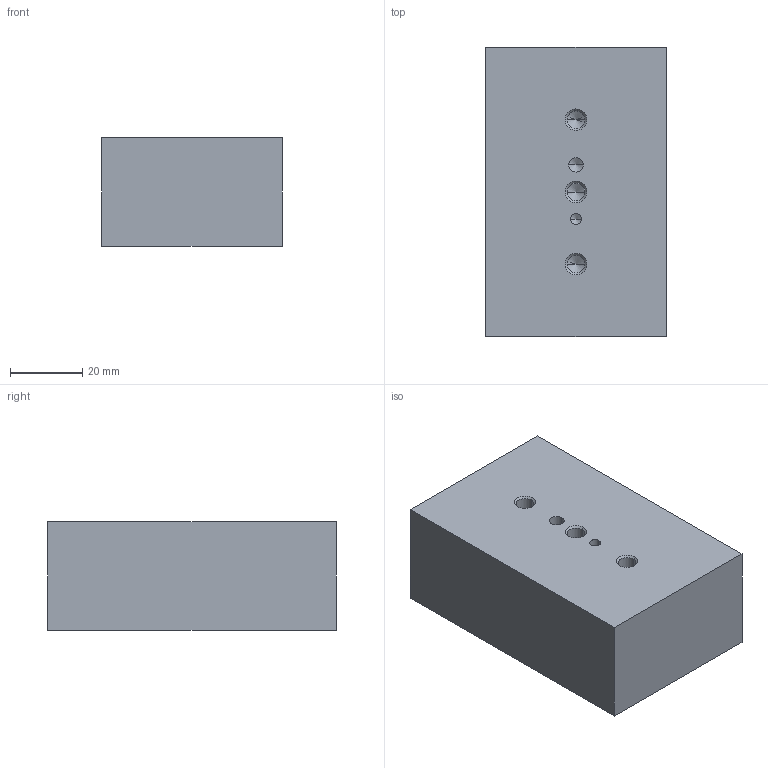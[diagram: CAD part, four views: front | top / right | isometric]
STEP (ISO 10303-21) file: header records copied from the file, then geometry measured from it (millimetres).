
FILE_DESCRIPTION(('STEP AP214'),'1');
FILE_NAME('cctmp_85369EBE-6C16-4774-AEDF-9D24667DA31F_2019_10_4_7_11_40_323..stp','2019-10-04T05:11:40',('Meusburger Georg GmbH & Co KG'),('CADClick - www.CADClick.com'),'Spatial InterOp 3D',' ','unknown authorization');
FILE_SCHEMA(('AUTOMOTIVE_DESIGN { 1 0 10303 214 1 1 1 1 }'));
Length unit declared in the file: millimetre
Products named in the file (1): V 92561_50_80_30
Bounding box: 50 x 80 x 30 mm (x, y, z)
Volume: 118947.5 mm3; surface area: 16669.7 mm2
Topology: 1 solids, 1 shells, 41 faces, 92 edges, 51 vertices
Faces by surface type: cylinder 16, cone 16, plane 9
Entity records: 1418 total; most frequent: DIRECTION 204, CARTESIAN_POINT 175, ORIENTED_EDGE 164, EDGE_CURVE 82, AXIS2_PLACEMENT_3D 80, VERTEX_POINT 51, EDGE_LOOP 49, LINE 44
